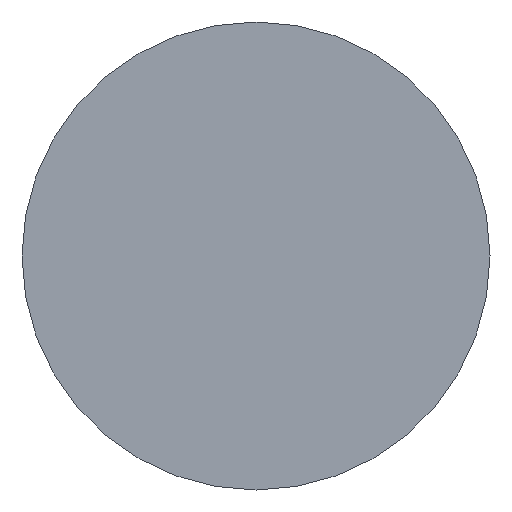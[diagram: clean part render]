
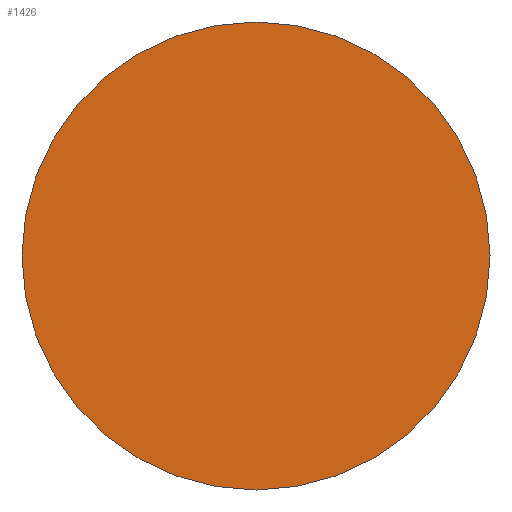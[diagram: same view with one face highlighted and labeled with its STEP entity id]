
A CAD part, left-side view. The second image highlights one B-rep face of the part: STEP entity #1426.
In plain terms, the highlighted planar face has unit normal (-1, 0, 0).
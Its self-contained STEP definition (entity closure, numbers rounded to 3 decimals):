
#182 = EDGE_CURVE ( 'NONE', #1242, #1334, #653, .T. ) ;
#217 = EDGE_CURVE ( 'NONE', #1334, #1242, #633, .T. ) ;
#618 = AXIS2_PLACEMENT_3D ( 'NONE', #1049, #1048, #1011 ) ;
#633 = CIRCLE ( 'NONE', #657, 19. ) ;
#653 = CIRCLE ( 'NONE', #618, 19. ) ;
#657 = AXIS2_PLACEMENT_3D ( 'NONE', #833, #1115, #693 ) ;
#683 = PLANE ( 'NONE',  #1141 ) ;
#693 = DIRECTION ( 'NONE',  ( 0., 0., -1. ) ) ;
#721 = EDGE_LOOP ( 'NONE', ( #1388, #1390 ) ) ;
#733 = CARTESIAN_POINT ( 'NONE',  ( 0., 0., -19. ) ) ;
#833 = CARTESIAN_POINT ( 'NONE',  ( 0., 0., 0. ) ) ;
#856 = DIRECTION ( 'NONE',  ( -1., 0., 0. ) ) ;
#913 = FACE_OUTER_BOUND ( 'NONE', #721, .T. ) ;
#914 = DIRECTION ( 'NONE',  ( 0., 0., 1. ) ) ;
#945 = CARTESIAN_POINT ( 'NONE',  ( 0., 0., 19. ) ) ;
#1011 = DIRECTION ( 'NONE',  ( 0., 0., -1. ) ) ;
#1048 = DIRECTION ( 'NONE',  ( 1., 0., 0. ) ) ;
#1049 = CARTESIAN_POINT ( 'NONE',  ( 0., 0., 0. ) ) ;
#1104 = CARTESIAN_POINT ( 'NONE',  ( 0., 19., 0. ) ) ;
#1115 = DIRECTION ( 'NONE',  ( 1., 0., 0. ) ) ;
#1141 = AXIS2_PLACEMENT_3D ( 'NONE', #1104, #856, #914 ) ;
#1242 = VERTEX_POINT ( 'NONE', #733 ) ;
#1334 = VERTEX_POINT ( 'NONE', #945 ) ;
#1388 = ORIENTED_EDGE ( 'NONE', *, *, #182, .F. ) ;
#1390 = ORIENTED_EDGE ( 'NONE', *, *, #217, .F. ) ;
#1426 = ADVANCED_FACE ( 'NONE', ( #913 ), #683, .T. ) ;
